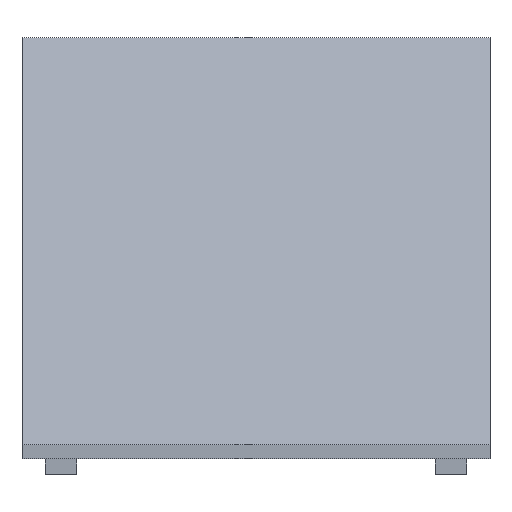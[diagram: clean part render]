
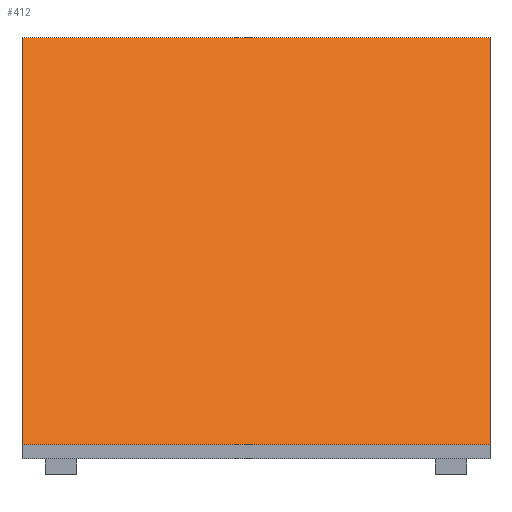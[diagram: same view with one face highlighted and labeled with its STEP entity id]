
A CAD part, left-side view. The second image highlights one B-rep face of the part: STEP entity #412.
In plain terms, the highlighted planar face has unit normal (-0.867, 0, 0.498).
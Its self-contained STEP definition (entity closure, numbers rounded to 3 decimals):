
#412 = ADVANCED_FACE('',(#413),#427,.T.);
#413 = FACE_BOUND('',#414,.T.);
#414 = EDGE_LOOP('',(#415,#450,#478,#506));
#415 = ORIENTED_EDGE('',*,*,#416,.T.);
#416 = EDGE_CURVE('',#417,#419,#421,.T.);
#417 = VERTEX_POINT('',#418);
#418 = CARTESIAN_POINT('',(-300.,300.,18.));
#419 = VERTEX_POINT('',#420);
#420 = CARTESIAN_POINT('',(-300.,-300.,18.));
#421 = SURFACE_CURVE('',#422,(#426,#438),.PCURVE_S1.);
#422 = LINE('',#423,#424);
#423 = CARTESIAN_POINT('',(-300.,300.,18.));
#424 = VECTOR('',#425,1.);
#425 = DIRECTION('',(0.,-1.,0.));
#426 = PCURVE('',#427,#432);
#427 = PLANE('',#428);
#428 = AXIS2_PLACEMENT_3D('',#429,#430,#431);
#429 = CARTESIAN_POINT('',(-300.,300.,18.));
#430 = DIRECTION('',(-0.867,0.,0.498));
#431 = DIRECTION('',(0.498,0.,0.867));
#432 = DEFINITIONAL_REPRESENTATION('',(#433),#437);
#433 = LINE('',#434,#435);
#434 = CARTESIAN_POINT('',(0.,0.));
#435 = VECTOR('',#436,1.);
#436 = DIRECTION('',(0.,-1.));
#437 = ( GEOMETRIC_REPRESENTATION_CONTEXT(2) 
PARAMETRIC_REPRESENTATION_CONTEXT() REPRESENTATION_CONTEXT('2D SPACE',''
  ) );
#438 = PCURVE('',#439,#444);
#439 = PLANE('',#440);
#440 = AXIS2_PLACEMENT_3D('',#441,#442,#443);
#441 = CARTESIAN_POINT('',(-279.239,300.,18.));
#442 = DIRECTION('',(-0.,-0.,-1.));
#443 = DIRECTION('',(-1.,0.,0.));
#444 = DEFINITIONAL_REPRESENTATION('',(#445),#449);
#445 = LINE('',#446,#447);
#446 = CARTESIAN_POINT('',(20.761,0.));
#447 = VECTOR('',#448,1.);
#448 = DIRECTION('',(0.,-1.));
#449 = ( GEOMETRIC_REPRESENTATION_CONTEXT(2) 
PARAMETRIC_REPRESENTATION_CONTEXT() REPRESENTATION_CONTEXT('2D SPACE',''
  ) );
#450 = ORIENTED_EDGE('',*,*,#451,.T.);
#451 = EDGE_CURVE('',#419,#452,#454,.T.);
#452 = VERTEX_POINT('',#453);
#453 = CARTESIAN_POINT('',(0.,-300.,540.));
#454 = SURFACE_CURVE('',#455,(#459,#466),.PCURVE_S1.);
#455 = LINE('',#456,#457);
#456 = CARTESIAN_POINT('',(-300.,-300.,18.));
#457 = VECTOR('',#458,1.);
#458 = DIRECTION('',(0.498,0.,0.867));
#459 = PCURVE('',#427,#460);
#460 = DEFINITIONAL_REPRESENTATION('',(#461),#465);
#461 = LINE('',#462,#463);
#462 = CARTESIAN_POINT('',(0.,-600.));
#463 = VECTOR('',#464,1.);
#464 = DIRECTION('',(1.,0.));
#465 = ( GEOMETRIC_REPRESENTATION_CONTEXT(2) 
PARAMETRIC_REPRESENTATION_CONTEXT() REPRESENTATION_CONTEXT('2D SPACE',''
  ) );
#466 = PCURVE('',#467,#472);
#467 = PLANE('',#468);
#468 = AXIS2_PLACEMENT_3D('',#469,#470,#471);
#469 = CARTESIAN_POINT('',(-143.163,-300.,273.452));
#470 = DIRECTION('',(0.,1.,0.));
#471 = DIRECTION('',(0.,-0.,1.));
#472 = DEFINITIONAL_REPRESENTATION('',(#473),#477);
#473 = LINE('',#474,#475);
#474 = CARTESIAN_POINT('',(-255.452,-156.837));
#475 = VECTOR('',#476,1.);
#476 = DIRECTION('',(0.867,0.498));
#477 = ( GEOMETRIC_REPRESENTATION_CONTEXT(2) 
PARAMETRIC_REPRESENTATION_CONTEXT() REPRESENTATION_CONTEXT('2D SPACE',''
  ) );
#478 = ORIENTED_EDGE('',*,*,#479,.F.);
#479 = EDGE_CURVE('',#480,#452,#482,.T.);
#480 = VERTEX_POINT('',#481);
#481 = CARTESIAN_POINT('',(0.,300.,540.));
#482 = SURFACE_CURVE('',#483,(#487,#494),.PCURVE_S1.);
#483 = LINE('',#484,#485);
#484 = CARTESIAN_POINT('',(0.,300.,540.));
#485 = VECTOR('',#486,1.);
#486 = DIRECTION('',(0.,-1.,0.));
#487 = PCURVE('',#427,#488);
#488 = DEFINITIONAL_REPRESENTATION('',(#489),#493);
#489 = LINE('',#490,#491);
#490 = CARTESIAN_POINT('',(602.066,0.));
#491 = VECTOR('',#492,1.);
#492 = DIRECTION('',(0.,-1.));
#493 = ( GEOMETRIC_REPRESENTATION_CONTEXT(2) 
PARAMETRIC_REPRESENTATION_CONTEXT() REPRESENTATION_CONTEXT('2D SPACE',''
  ) );
#494 = PCURVE('',#495,#500);
#495 = PLANE('',#496);
#496 = AXIS2_PLACEMENT_3D('',#497,#498,#499);
#497 = CARTESIAN_POINT('',(0.,300.,540.));
#498 = DIRECTION('',(1.,0.,0.));
#499 = DIRECTION('',(0.,0.,-1.));
#500 = DEFINITIONAL_REPRESENTATION('',(#501),#505);
#501 = LINE('',#502,#503);
#502 = CARTESIAN_POINT('',(0.,0.));
#503 = VECTOR('',#504,1.);
#504 = DIRECTION('',(0.,-1.));
#505 = ( GEOMETRIC_REPRESENTATION_CONTEXT(2) 
PARAMETRIC_REPRESENTATION_CONTEXT() REPRESENTATION_CONTEXT('2D SPACE',''
  ) );
#506 = ORIENTED_EDGE('',*,*,#507,.F.);
#507 = EDGE_CURVE('',#417,#480,#508,.T.);
#508 = SURFACE_CURVE('',#509,(#513,#520),.PCURVE_S1.);
#509 = LINE('',#510,#511);
#510 = CARTESIAN_POINT('',(-300.,300.,18.));
#511 = VECTOR('',#512,1.);
#512 = DIRECTION('',(0.498,0.,0.867));
#513 = PCURVE('',#427,#514);
#514 = DEFINITIONAL_REPRESENTATION('',(#515),#519);
#515 = LINE('',#516,#517);
#516 = CARTESIAN_POINT('',(0.,0.));
#517 = VECTOR('',#518,1.);
#518 = DIRECTION('',(1.,0.));
#519 = ( GEOMETRIC_REPRESENTATION_CONTEXT(2) 
PARAMETRIC_REPRESENTATION_CONTEXT() REPRESENTATION_CONTEXT('2D SPACE',''
  ) );
#520 = PCURVE('',#521,#526);
#521 = PLANE('',#522);
#522 = AXIS2_PLACEMENT_3D('',#523,#524,#525);
#523 = CARTESIAN_POINT('',(-143.163,300.,273.452));
#524 = DIRECTION('',(0.,1.,0.));
#525 = DIRECTION('',(0.,-0.,1.));
#526 = DEFINITIONAL_REPRESENTATION('',(#527),#531);
#527 = LINE('',#528,#529);
#528 = CARTESIAN_POINT('',(-255.452,-156.837));
#529 = VECTOR('',#530,1.);
#530 = DIRECTION('',(0.867,0.498));
#531 = ( GEOMETRIC_REPRESENTATION_CONTEXT(2) 
PARAMETRIC_REPRESENTATION_CONTEXT() REPRESENTATION_CONTEXT('2D SPACE',''
  ) );
